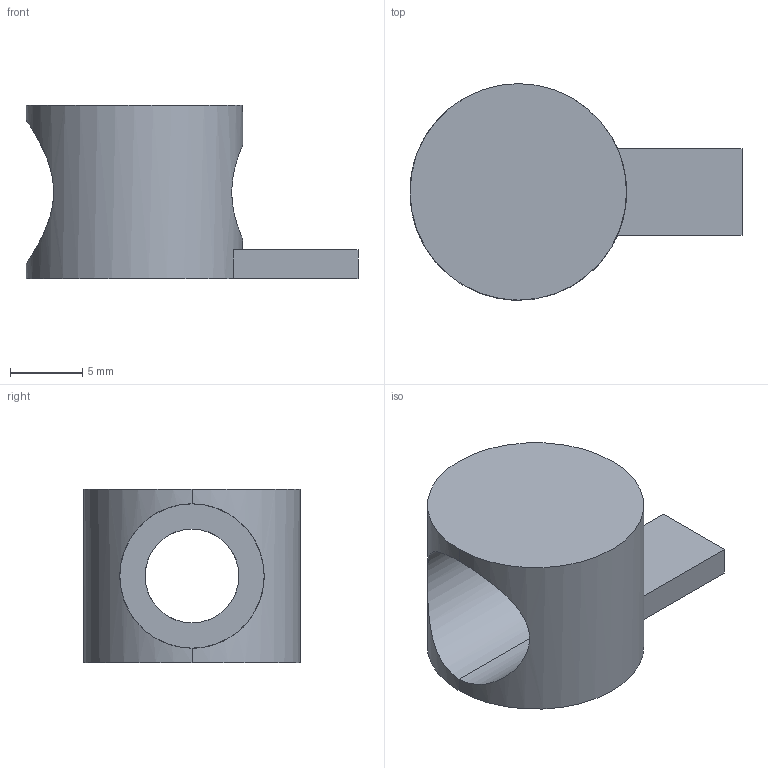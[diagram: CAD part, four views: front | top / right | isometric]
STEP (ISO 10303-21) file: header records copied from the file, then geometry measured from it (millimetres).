
FILE_DESCRIPTION (( 'STEP AP203' ), '1' );
FILE_NAME ('71-CE-IR3030-6.STEP', '2015-07-09T08:22:20', ( '' ), ( '' ), 'SwSTEP 2.0', 'SolidWorks 2013', '' );
FILE_SCHEMA (( 'CONFIG_CONTROL_DESIGN' ));
Length unit declared in the file: millimetre
Products named in the file (1): 71-CE-IR3030-6
Bounding box: 23 x 15 x 12 mm (x, y, z)
Volume: 1240.5 mm3; surface area: 1375.4 mm2
Topology: 1 solids, 1 shells, 13 faces, 32 edges, 20 vertices
Faces by surface type: plane 7, cylinder 6
Entity records: 599 total; most frequent: CARTESIAN_POINT 208, DIRECTION 66, ORIENTED_EDGE 64, EDGE_CURVE 32, AXIS2_PLACEMENT_3D 24, VERTEX_POINT 20, LINE 18, VECTOR 18
